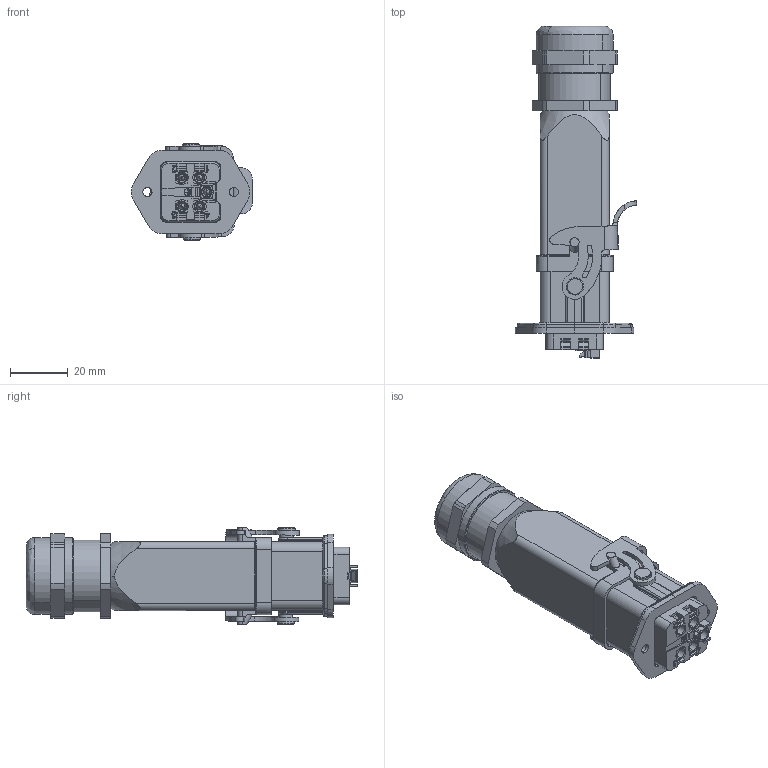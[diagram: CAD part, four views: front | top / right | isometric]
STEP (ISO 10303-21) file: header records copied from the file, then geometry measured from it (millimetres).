
FILE_DESCRIPTION (( 'STEP AP214' ), '1' );
FILE_NAME ('09104002120M HA3 HA、4针、开孔底座、顶出20套件、配金属接头.STEP', '2024-05-07T06:26:48', ( 'L' ), ( '' ), 'SwSTEP 2.0', 'SolidWorks 2019', '' );
FILE_SCHEMA (( 'AUTOMOTIVE_DESIGN' ));
Length unit declared in the file: millimetre
Products named in the file (7): H3A-MAG.step.STEP; 09104002120M HA3 HA、4针、开孔底座、顶出20套件、配金属接头; HAS-004-F.step.STEP; FAS-20-M.step; HAS-004-M.step.STEP; H3A-MTG-M20.step.STEP; 09104002120 HA3 HA、4针、开孔底座、顶出20套件、.STEP
Assembly tree (6 placements, depth 3):
  09104002120M HA3 HA、4针、开孔底座、顶出20套件、配金属接头
    09104002120 HA3 HA、4针、开孔底座、顶出20套件、.STEP
      H3A-MAG.step.STEP
      H3A-MTG-M20.step.STEP
      HAS-004-F.step.STEP
      HAS-004-M.step.STEP
    FAS-20-M.step
Bounding box: 42.19 x 115.42 x 33.67 mm (x, y, z)
Volume: 50209.9 mm3; surface area: 36121.6 mm2
Topology: 7 solids, 7 shells, 1668 faces, 4608 edges, 2986 vertices
Faces by surface type: plane 868, cylinder 386, bspline 304, cone 88, torus 22
Entity records: 68058 total; most frequent: CARTESIAN_POINT 19893, ORIENTED_EDGE 9136, DIRECTION 7044, EDGE_CURVE 4568, VERTEX_POINT 2986, LINE 2842, VECTOR 2842, AXIS2_PLACEMENT_3D 2101
